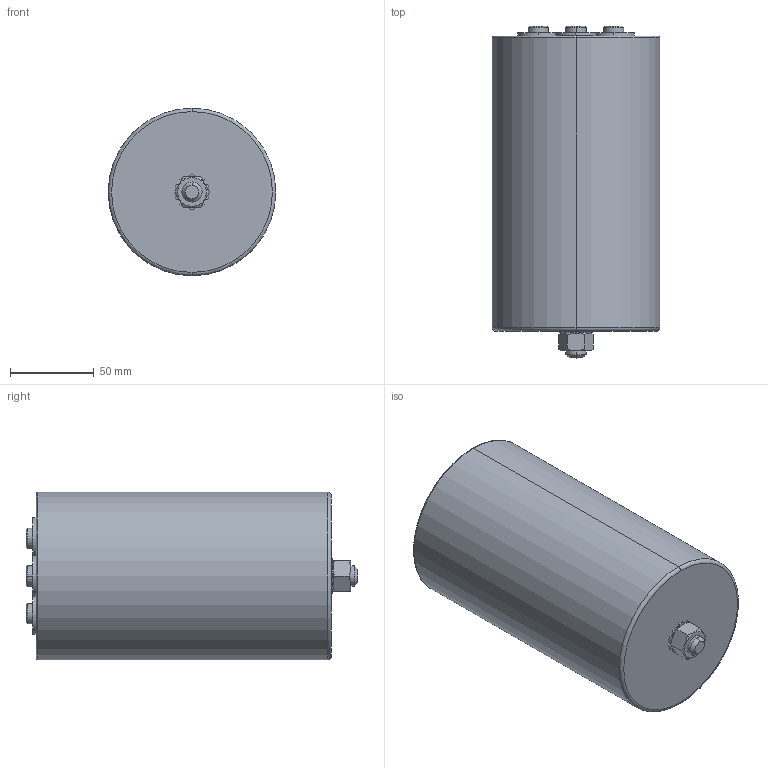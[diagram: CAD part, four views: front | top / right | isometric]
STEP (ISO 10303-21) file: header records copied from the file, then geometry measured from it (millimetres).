
FILE_DESCRIPTION (( 'STEP AP214' ), '1' );
FILE_NAME ('B25967 Series ¦µ100 Hc176 Ht182.STEP', '2025-08-20T02:09:22', ( '' ), ( '' ), 'SwSTEP 2.0', 'SolidWorks 2019', '' );
FILE_SCHEMA (( 'AUTOMOTIVE_DESIGN' ));
Length unit declared in the file: millimetre
Products named in the file (1): B25967 Series 朴100 Hc176 Ht182
Bounding box: 100 x 198 x 100 mm (x, y, z)
Volume: 1386017.6 mm3; surface area: 75490.6 mm2
Topology: 1 solids, 2 shells, 162 faces, 379 edges, 230 vertices
Faces by surface type: cylinder 63, plane 63, cone 30, torus 6
Entity records: 4743 total; most frequent: CARTESIAN_POINT 896, DIRECTION 885, ORIENTED_EDGE 742, EDGE_CURVE 371, AXIS2_PLACEMENT_3D 363, VERTEX_POINT 230, CIRCLE 200, EDGE_LOOP 181
